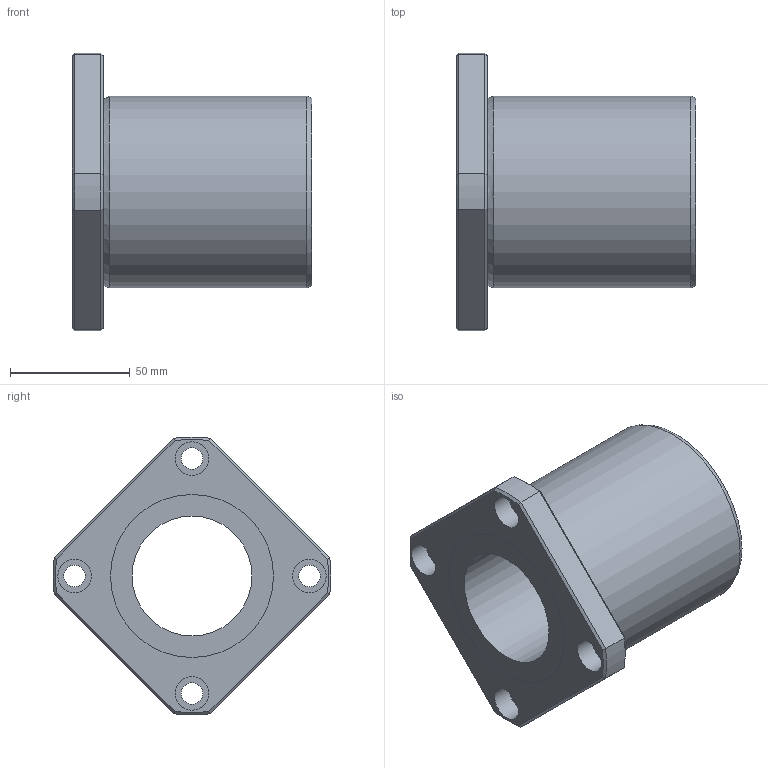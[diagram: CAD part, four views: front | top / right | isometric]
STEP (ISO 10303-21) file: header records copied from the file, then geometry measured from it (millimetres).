
FILE_DESCRIPTION((''),'2;1');
FILE_NAME('D:\製品 (図面)\カタログ用3D\リニアベアリング関連\STEP形式\LFK\LFK50.stp','2010-06-04T08:51:07',('Tsuchiya'),(''),'Autodesk Inventor 10','Autodesk Inventor 10','');
FILE_SCHEMA(('AUTOMOTIVE_DESIGN { 1 0 10303 214 1 1 1 1 }'));
Length unit declared in the file: millimetre
Products named in the file (1): LFK50
Bounding box: 100 x 115.89 x 115.89 mm (x, y, z)
Volume: 340541.8 mm3; surface area: 55826.9 mm2
Topology: 1 solids, 1 shells, 47 faces, 96 edges, 58 vertices
Faces by surface type: plane 21, cylinder 16, cone 8, torus 1, bspline 1
Full cylindrical faces by diameter (mm): 9 x4, 14 x4, 50 x1, 68 x2, 80 x1
Entity records: 1257 total; most frequent: CARTESIAN_POINT 280, DIRECTION 202, ORIENTED_EDGE 164, AXIS2_PLACEMENT_3D 89, EDGE_CURVE 82, EDGE_LOOP 78, VERTEX_POINT 58, FACE_OUTER_BOUND 47
